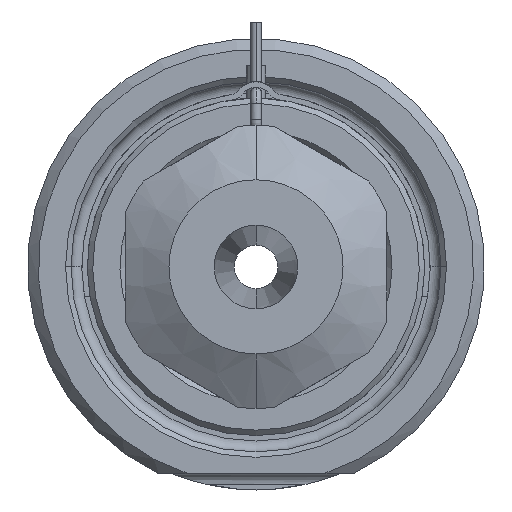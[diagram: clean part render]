
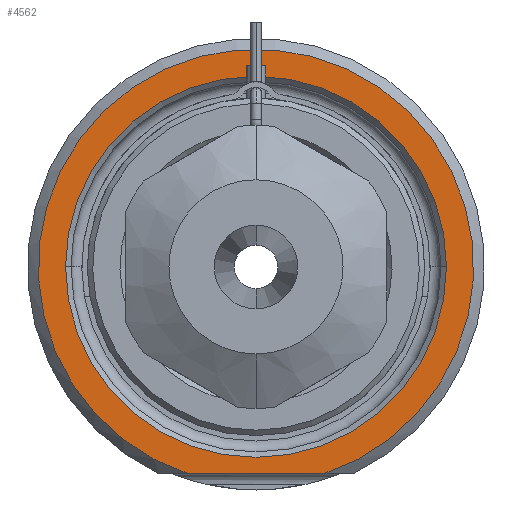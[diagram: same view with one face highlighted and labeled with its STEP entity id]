
A CAD part, front view. The second image highlights one B-rep face of the part: STEP entity #4562.
In plain terms, the highlighted planar face has unit normal (0, -1, 0).
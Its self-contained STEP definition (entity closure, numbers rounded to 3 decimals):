
#1603=CARTESIAN_POINT('',(0.,0.,0.));
#1604=DIRECTION('',(0.,-1.,0.));
#1605=DIRECTION('',(0.312,0.,-0.95));
#1606=AXIS2_PLACEMENT_3D('',#1603,#1604,#1605);
#1627=DIRECTION('',(1.,0.,0.));
#1628=VECTOR('',#1627,12.49);
#1629=CARTESIAN_POINT('',(-6.245,0.,-19.));
#1630=LINE('',#1629,#1628);
#1631=CARTESIAN_POINT('',(0.,0.,0.));
#1632=DIRECTION('',(0.,1.,0.));
#1633=DIRECTION('',(-1.,0.,0.));
#1634=AXIS2_PLACEMENT_3D('',#1631,#1632,#1633);
#1636=CARTESIAN_POINT('',(0.,0.,0.));
#1637=DIRECTION('',(0.,1.,0.));
#1638=DIRECTION('',(1.,0.,0.));
#1639=AXIS2_PLACEMENT_3D('',#1636,#1637,#1638);
#2471=CARTESIAN_POINT('',(-17.5,0.,0.));
#2472=CARTESIAN_POINT('',(17.5,0.,0.));
#2473=VERTEX_POINT('',#2471);
#2474=VERTEX_POINT('',#2472);
#2529=CARTESIAN_POINT('',(-6.245,0.,-19.));
#2530=CARTESIAN_POINT('',(6.245,0.,-19.));
#2531=VERTEX_POINT('',#2529);
#2532=VERTEX_POINT('',#2530);
#4547=CARTESIAN_POINT('',(0.,0.,0.));
#4548=DIRECTION('',(0.,-1.,0.));
#4549=DIRECTION('',(1.,0.,0.));
#4550=AXIS2_PLACEMENT_3D('',#4547,#4548,#4549);
#4551=PLANE('',#4550);
#4552=ORIENTED_EDGE('',*,*,#4479,.F.);
#4553=ORIENTED_EDGE('',*,*,#4539,.F.);
#4554=EDGE_LOOP('',(#4552,#4553));
#4555=FACE_OUTER_BOUND('',#4554,.F.);
#4557=ORIENTED_EDGE('',*,*,#4556,.F.);
#4559=ORIENTED_EDGE('',*,*,#4558,.F.);
#4560=EDGE_LOOP('',(#4557,#4559));
#4561=FACE_BOUND('',#4560,.F.);
#4562=ADVANCED_FACE('',(#4555,#4561),#4551,.T.);
#1607=CIRCLE('',#1606,20.);
#1635=CIRCLE('',#1634,17.5);
#1640=CIRCLE('',#1639,17.5);
#4479=EDGE_CURVE('',#2531,#2532,#1630,.T.);
#4539=EDGE_CURVE('',#2532,#2531,#1607,.T.);
#4556=EDGE_CURVE('',#2473,#2474,#1635,.T.);
#4558=EDGE_CURVE('',#2474,#2473,#1640,.T.);
